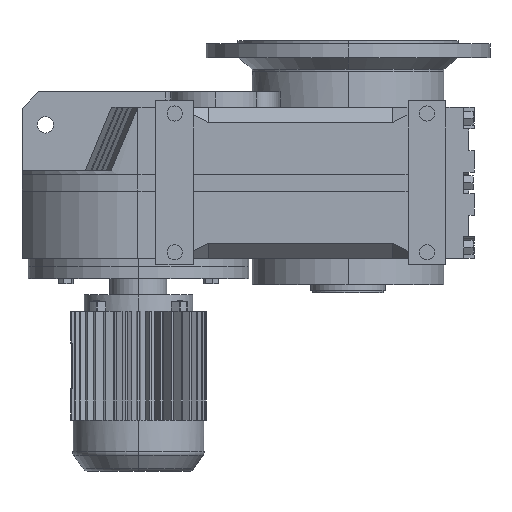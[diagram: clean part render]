
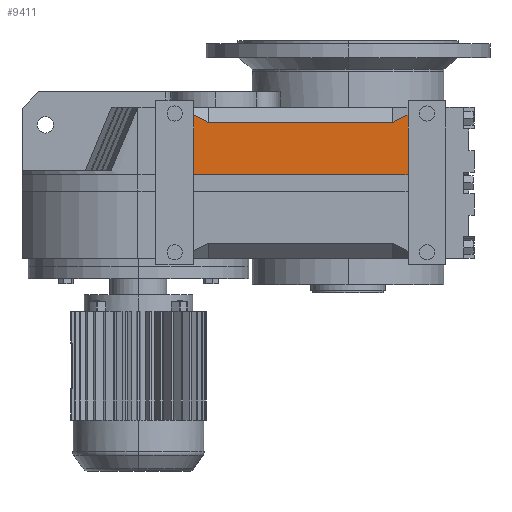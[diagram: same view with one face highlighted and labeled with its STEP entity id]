
A CAD part, left-side view. The second image highlights one B-rep face of the part: STEP entity #9411.
In plain terms, the highlighted planar face has unit normal (-1, 0, 0).
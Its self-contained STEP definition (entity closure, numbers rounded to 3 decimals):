
#149 = PLANE('',#150);
#150 = AXIS2_PLACEMENT_3D('',#151,#152,#153);
#151 = CARTESIAN_POINT('',(-178.6,-427.4,2.5));
#152 = DIRECTION('',(0.,1.,0.));
#153 = DIRECTION('',(-1.,0.,0.));
#255 = PLANE('',#256);
#256 = AXIS2_PLACEMENT_3D('',#257,#258,#259);
#257 = CARTESIAN_POINT('',(-178.6,-87.4,2.5));
#258 = DIRECTION('',(0.,-1.,0.));
#259 = DIRECTION('',(1.,0.,0.));
#1309 = VERTEX_POINT('',#1310);
#1310 = CARTESIAN_POINT('',(-214.6,-427.4,240.454));
#1324 = PLANE('',#1325);
#1325 = AXIS2_PLACEMENT_3D('',#1326,#1327,#1328);
#1326 = CARTESIAN_POINT('',(-315.577,-427.4,139.477));
#1327 = DIRECTION('',(-0.664,0.342,0.664));
#1328 = DIRECTION('',(0.707,0.,0.707)
  );
#1336 = EDGE_CURVE('',#1337,#1309,#1339,.T.);
#1337 = VERTEX_POINT('',#1338);
#1338 = CARTESIAN_POINT('',(-214.6,-427.4,145.5));
#1339 = SURFACE_CURVE('',#1340,(#1344,#1351),.PCURVE_S1.);
#1340 = LINE('',#1341,#1342);
#1341 = CARTESIAN_POINT('',(-214.6,-427.4,252.1));
#1342 = VECTOR('',#1343,1.);
#1343 = DIRECTION('',(0.,0.,1.));
#1344 = PCURVE('',#149,#1345);
#1345 = DEFINITIONAL_REPRESENTATION('',(#1346),#1350);
#1346 = LINE('',#1347,#1348);
#1347 = CARTESIAN_POINT('',(36.,249.6));
#1348 = VECTOR('',#1349,1.);
#1349 = DIRECTION('',(0.,1.));
#1350 = ( GEOMETRIC_REPRESENTATION_CONTEXT(2) 
PARAMETRIC_REPRESENTATION_CONTEXT() REPRESENTATION_CONTEXT('2D SPACE',''
  ) );
#1351 = PCURVE('',#1352,#1357);
#1352 = PLANE('',#1353);
#1353 = AXIS2_PLACEMENT_3D('',#1354,#1355,#1356);
#1354 = CARTESIAN_POINT('',(-214.6,-532.4,252.1));
#1355 = DIRECTION('',(1.,0.,0.));
#1356 = DIRECTION('',(0.,1.,0.));
#1357 = DEFINITIONAL_REPRESENTATION('',(#1358),#1362);
#1358 = LINE('',#1359,#1360);
#1359 = CARTESIAN_POINT('',(105.,0.));
#1360 = VECTOR('',#1361,1.);
#1361 = DIRECTION('',(0.,1.));
#1362 = ( GEOMETRIC_REPRESENTATION_CONTEXT(2) 
PARAMETRIC_REPRESENTATION_CONTEXT() REPRESENTATION_CONTEXT('2D SPACE',''
  ) );
#1380 = PLANE('',#1381);
#1381 = AXIS2_PLACEMENT_3D('',#1382,#1383,#1384);
#1382 = CARTESIAN_POINT('',(-9.231,1.,145.5));
#1383 = DIRECTION('',(0.,0.,-1.));
#1384 = DIRECTION('',(-1.,0.,0.));
#5847 = VERTEX_POINT('',#5848);
#5848 = CARTESIAN_POINT('',(-214.6,-87.4,145.5));
#5869 = EDGE_CURVE('',#5870,#5847,#5872,.T.);
#5870 = VERTEX_POINT('',#5871);
#5871 = CARTESIAN_POINT('',(-214.6,-87.4,240.454));
#5872 = SURFACE_CURVE('',#5873,(#5877,#5884),.PCURVE_S1.);
#5873 = LINE('',#5874,#5875);
#5874 = CARTESIAN_POINT('',(-214.6,-87.4,252.1));
#5875 = VECTOR('',#5876,1.);
#5876 = DIRECTION('',(0.,0.,-1.));
#5877 = PCURVE('',#255,#5878);
#5878 = DEFINITIONAL_REPRESENTATION('',(#5879),#5883);
#5879 = LINE('',#5880,#5881);
#5880 = CARTESIAN_POINT('',(-36.,249.6));
#5881 = VECTOR('',#5882,1.);
#5882 = DIRECTION('',(0.,-1.));
#5883 = ( GEOMETRIC_REPRESENTATION_CONTEXT(2) 
PARAMETRIC_REPRESENTATION_CONTEXT() REPRESENTATION_CONTEXT('2D SPACE',''
  ) );
#5884 = PCURVE('',#1352,#5885);
#5885 = DEFINITIONAL_REPRESENTATION('',(#5886),#5890);
#5886 = LINE('',#5887,#5888);
#5887 = CARTESIAN_POINT('',(445.,0.));
#5888 = VECTOR('',#5889,1.);
#5889 = DIRECTION('',(0.,-1.));
#5890 = ( GEOMETRIC_REPRESENTATION_CONTEXT(2) 
PARAMETRIC_REPRESENTATION_CONTEXT() REPRESENTATION_CONTEXT('2D SPACE',''
  ) );
#5908 = PLANE('',#5909);
#5909 = AXIS2_PLACEMENT_3D('',#5910,#5911,#5912);
#5910 = CARTESIAN_POINT('',(-315.577,-87.4,139.477));
#5911 = DIRECTION('',(-0.664,-0.342,0.664));
#5912 = DIRECTION('',(0.707,0.,0.707));
#6803 = PLANE('',#6804);
#6804 = AXIS2_PLACEMENT_3D('',#6805,#6806,#6807);
#6805 = CARTESIAN_POINT('',(-190.6,1.,252.1));
#6806 = DIRECTION('',(-0.707,0.,
    0.707));
#6807 = DIRECTION('',(0.707,0.,0.707));
#9314 = VERTEX_POINT('',#9315);
#9315 = CARTESIAN_POINT('',(-214.6,-403.4,228.1));
#9336 = EDGE_CURVE('',#1309,#9314,#9337,.T.);
#9337 = SURFACE_CURVE('',#9338,(#9342,#9349),.PCURVE_S1.);
#9338 = LINE('',#9339,#9340);
#9339 = CARTESIAN_POINT('',(-214.6,-515.146,285.619));
#9340 = VECTOR('',#9341,1.);
#9341 = DIRECTION('',(0.,0.889,
    -0.458));
#9342 = PCURVE('',#1324,#9343);
#9343 = DEFINITIONAL_REPRESENTATION('',(#9344),#9348);
#9344 = LINE('',#9345,#9346);
#9345 = CARTESIAN_POINT('',(174.74,-93.378));
#9346 = VECTOR('',#9347,1.);
#9347 = DIRECTION('',(-0.324,0.946));
#9348 = ( GEOMETRIC_REPRESENTATION_CONTEXT(2) 
PARAMETRIC_REPRESENTATION_CONTEXT() REPRESENTATION_CONTEXT('2D SPACE',''
  ) );
#9349 = PCURVE('',#1352,#9350);
#9350 = DEFINITIONAL_REPRESENTATION('',(#9351),#9355);
#9351 = LINE('',#9352,#9353);
#9352 = CARTESIAN_POINT('',(17.254,33.519));
#9353 = VECTOR('',#9354,1.);
#9354 = DIRECTION('',(0.889,-0.458));
#9355 = ( GEOMETRIC_REPRESENTATION_CONTEXT(2) 
PARAMETRIC_REPRESENTATION_CONTEXT() REPRESENTATION_CONTEXT('2D SPACE',''
  ) );
#9411 = ADVANCED_FACE('',(#9412),#1352,.F.);
#9412 = FACE_BOUND('',#9413,.T.);
#9413 = EDGE_LOOP('',(#9414,#9415,#9416,#9439,#9460,#9461));
#9414 = ORIENTED_EDGE('',*,*,#1336,.T.);
#9415 = ORIENTED_EDGE('',*,*,#9336,.T.);
#9416 = ORIENTED_EDGE('',*,*,#9417,.T.);
#9417 = EDGE_CURVE('',#9314,#9418,#9420,.T.);
#9418 = VERTEX_POINT('',#9419);
#9419 = CARTESIAN_POINT('',(-214.6,-111.4,228.1));
#9420 = SURFACE_CURVE('',#9421,(#9425,#9432),.PCURVE_S1.);
#9421 = LINE('',#9422,#9423);
#9422 = CARTESIAN_POINT('',(-214.6,-87.4,228.1));
#9423 = VECTOR('',#9424,1.);
#9424 = DIRECTION('',(0.,1.,0.));
#9425 = PCURVE('',#1352,#9426);
#9426 = DEFINITIONAL_REPRESENTATION('',(#9427),#9431);
#9427 = LINE('',#9428,#9429);
#9428 = CARTESIAN_POINT('',(445.,-24.));
#9429 = VECTOR('',#9430,1.);
#9430 = DIRECTION('',(1.,0.));
#9431 = ( GEOMETRIC_REPRESENTATION_CONTEXT(2) 
PARAMETRIC_REPRESENTATION_CONTEXT() REPRESENTATION_CONTEXT('2D SPACE',''
  ) );
#9432 = PCURVE('',#6803,#9433);
#9433 = DEFINITIONAL_REPRESENTATION('',(#9434),#9438);
#9434 = LINE('',#9435,#9436);
#9435 = CARTESIAN_POINT('',(-33.941,-88.4));
#9436 = VECTOR('',#9437,1.);
#9437 = DIRECTION('',(0.,1.));
#9438 = ( GEOMETRIC_REPRESENTATION_CONTEXT(2) 
PARAMETRIC_REPRESENTATION_CONTEXT() REPRESENTATION_CONTEXT('2D SPACE',''
  ) );
#9439 = ORIENTED_EDGE('',*,*,#9440,.T.);
#9440 = EDGE_CURVE('',#9418,#5870,#9441,.T.);
#9441 = SURFACE_CURVE('',#9442,(#9446,#9453),.PCURVE_S1.);
#9442 = LINE('',#9443,#9444);
#9443 = CARTESIAN_POINT('',(-214.6,-434.454,61.814));
#9444 = VECTOR('',#9445,1.);
#9445 = DIRECTION('',(0.,0.889,0.458
    ));
#9446 = PCURVE('',#1352,#9447);
#9447 = DEFINITIONAL_REPRESENTATION('',(#9448),#9452);
#9448 = LINE('',#9449,#9450);
#9449 = CARTESIAN_POINT('',(97.946,-190.286));
#9450 = VECTOR('',#9451,1.);
#9451 = DIRECTION('',(0.889,0.458));
#9452 = ( GEOMETRIC_REPRESENTATION_CONTEXT(2) 
PARAMETRIC_REPRESENTATION_CONTEXT() REPRESENTATION_CONTEXT('2D SPACE',''
  ) );
#9453 = PCURVE('',#5908,#9454);
#9454 = DEFINITIONAL_REPRESENTATION('',(#9455),#9459);
#9455 = LINE('',#9456,#9457);
#9456 = CARTESIAN_POINT('',(16.485,-369.327));
#9457 = VECTOR('',#9458,1.);
#9458 = DIRECTION('',(0.324,0.946));
#9459 = ( GEOMETRIC_REPRESENTATION_CONTEXT(2) 
PARAMETRIC_REPRESENTATION_CONTEXT() REPRESENTATION_CONTEXT('2D SPACE',''
  ) );
#9460 = ORIENTED_EDGE('',*,*,#5869,.T.);
#9461 = ORIENTED_EDGE('',*,*,#9462,.F.);
#9462 = EDGE_CURVE('',#1337,#5847,#9463,.T.);
#9463 = SURFACE_CURVE('',#9464,(#9468,#9475),.PCURVE_S1.);
#9464 = LINE('',#9465,#9466);
#9465 = CARTESIAN_POINT('',(-214.6,-532.4,145.5));
#9466 = VECTOR('',#9467,1.);
#9467 = DIRECTION('',(0.,1.,0.));
#9468 = PCURVE('',#1352,#9469);
#9469 = DEFINITIONAL_REPRESENTATION('',(#9470),#9474);
#9470 = LINE('',#9471,#9472);
#9471 = CARTESIAN_POINT('',(0.,-106.6));
#9472 = VECTOR('',#9473,1.);
#9473 = DIRECTION('',(1.,0.));
#9474 = ( GEOMETRIC_REPRESENTATION_CONTEXT(2) 
PARAMETRIC_REPRESENTATION_CONTEXT() REPRESENTATION_CONTEXT('2D SPACE',''
  ) );
#9475 = PCURVE('',#1380,#9476);
#9476 = DEFINITIONAL_REPRESENTATION('',(#9477),#9481);
#9477 = LINE('',#9478,#9479);
#9478 = CARTESIAN_POINT('',(205.369,-533.4));
#9479 = VECTOR('',#9480,1.);
#9480 = DIRECTION('',(0.,1.));
#9481 = ( GEOMETRIC_REPRESENTATION_CONTEXT(2) 
PARAMETRIC_REPRESENTATION_CONTEXT() REPRESENTATION_CONTEXT('2D SPACE',''
  ) );
